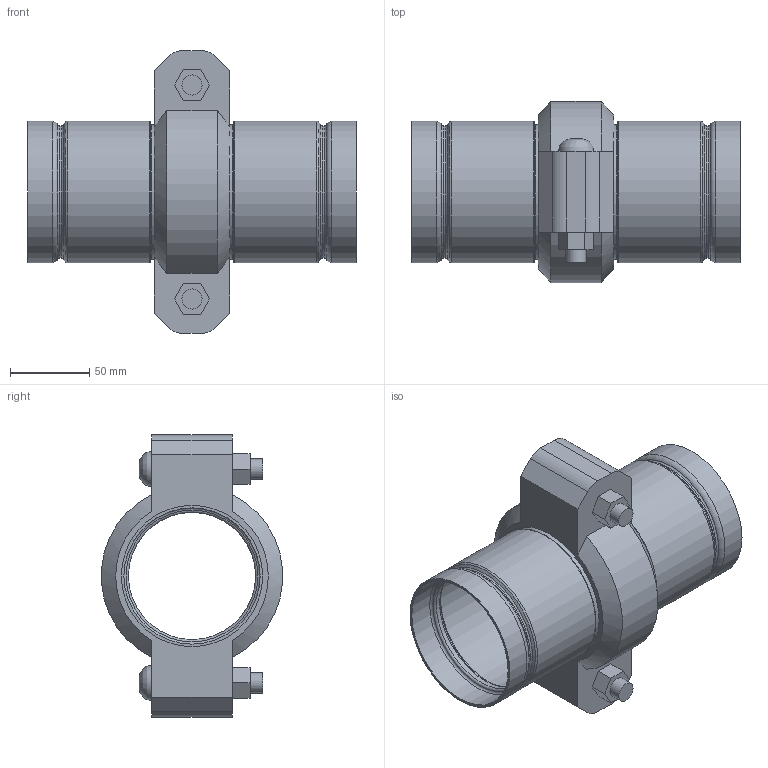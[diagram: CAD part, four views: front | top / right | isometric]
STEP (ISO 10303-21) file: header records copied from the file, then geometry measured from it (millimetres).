
FILE_DESCRIPTION(/* description */ ('VIC STRENGTHIN 100 EXPANSION JOINT 1 COUPLING EXPANDED STYLE E155 (ST1)','CAx-IF Rec.Pracs.---Representation and Presentation of Product Manufacturing Information (PMI)---4.0---2014-10-13'),/* implementation_level */ '2;1');
FILE_NAME(/* name */ 'C:\Users\Vjadhav\AppData\Roaming\Autodesk\ApplicationPlugins\Victaulic.Temp\A475\Victaulic_SS-StrengThin 100_Expansion Joint_Expanded_1 Coupling_Style E155 (ST1)_3 (80).stp',/* time_stamp */ '2021-07-23T19:21:54+06:00',/* author */ ('kkamble'),/* organization */ ('Victaulic'),/* preprocessor_version */ 'ST-DEVELOPER v17.2',/* originating_system */ 'Autodesk Inventor 2019',/* authorisation */ '');
FILE_SCHEMA (('AP242_MANAGED_MODEL_BASED_3D_ENGINEERING_MIM_LF { 1 0 10303 442 1 1 4 }'));
Length unit declared in the file: inch
Products named in the file (3): E155-03.0; E494G-03.0; 075-03.0
Assembly tree (3 placements, depth 2):
  E155-03.0
    E494G-03.0  x2
    075-03.0
Bounding box: 206.5 x 113.88 x 177.8 mm (x, y, z)
Volume: 426924.3 mm3; surface area: 178878 mm2
Topology: 3 solids, 5 shells, 125 faces, 355 edges, 256 vertices
Faces by surface type: plane 48, cylinder 35, torus 32, cone 8, bspline 2
Full cylindrical faces by diameter (mm): 12.7 x4, 14.605 x2, 79.985 x2, 81.737 x2, 82.55 x1, 83.185 x2, 84.938 x2, 85.7 x6, 88.9 x8
Entity records: 3250 total; most frequent: CARTESIAN_POINT 582, DIRECTION 569, ORIENTED_EDGE 488, EDGE_CURVE 244, AXIS2_PLACEMENT_3D 238, VERTEX_POINT 173, CIRCLE 143, EDGE_LOOP 111
